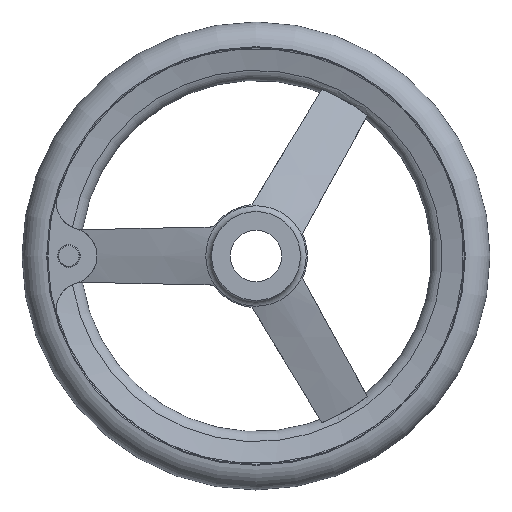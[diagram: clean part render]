
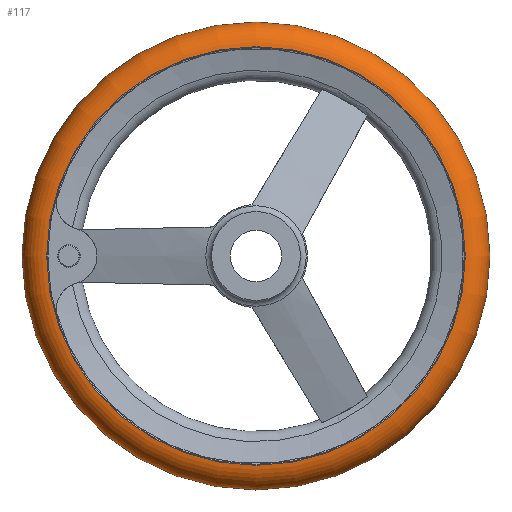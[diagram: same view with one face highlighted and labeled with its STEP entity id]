
A CAD part, left-side view. The second image highlights one B-rep face of the part: STEP entity #117.
In plain terms, the highlighted toroidal (fillet/blend) face has major radius 88.99 mm and minor radius 11.01 mm.
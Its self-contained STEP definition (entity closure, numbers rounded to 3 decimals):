
#117 = ADVANCED_FACE( '', ( #234, #235, #236 ), #237, .T. );
#234 = FACE_BOUND( '', #399, .T. );
#235 = FACE_OUTER_BOUND( '', #400, .T. );
#236 = FACE_OUTER_BOUND( '', #401, .T. );
#237 = TOROIDAL_SURFACE( '', #402, 88.99, 11.01 );
#399 = VERTEX_LOOP( '', #744 );
#400 = EDGE_LOOP( '', ( #745 ) );
#401 = EDGE_LOOP( '', ( #746 ) );
#402 = AXIS2_PLACEMENT_3D( '', #747, #748, #749 );
#744 = VERTEX_POINT( '', #911 );
#745 = ORIENTED_EDGE( '', *, *, #912, .T. );
#746 = ORIENTED_EDGE( '', *, *, #847, .F. );
#747 = CARTESIAN_POINT( '', ( 34., 0., 0. ) );
#748 = DIRECTION( '', ( 1., 0., 0. ) );
#749 = DIRECTION( '', ( 0., 1., 0. ) );
#847 = EDGE_CURVE( '', #1002, #1002, #1003, .T. );
#911 = CARTESIAN_POINT( '', ( 34., 100., 0. ) );
#912 = EDGE_CURVE( '', #1105, #1105, #1106, .T. );
#1002 = VERTEX_POINT( '', #1398 );
#1003 = CIRCLE( '', #1399, 89.458 );
#1105 = VERTEX_POINT( '', #1812 );
#1106 = CIRCLE( '', #1813, 89.458 );
#1398 = CARTESIAN_POINT( '', ( 45., 89.458, 0. ) );
#1399 = AXIS2_PLACEMENT_3D( '', #1884, #1885, #1886 );
#1812 = CARTESIAN_POINT( '', ( 23., 89.458, 0. ) );
#1813 = AXIS2_PLACEMENT_3D( '', #1974, #1975, #1976 );
#1884 = CARTESIAN_POINT( '', ( 45., 0., 0. ) );
#1885 = DIRECTION( '', ( 1., 0., 0. ) );
#1886 = DIRECTION( '', ( 0., 1., 0. ) );
#1974 = CARTESIAN_POINT( '', ( 23., 0., 0. ) );
#1975 = DIRECTION( '', ( 1., 0., 0. ) );
#1976 = DIRECTION( '', ( 0., 1., 0. ) );
